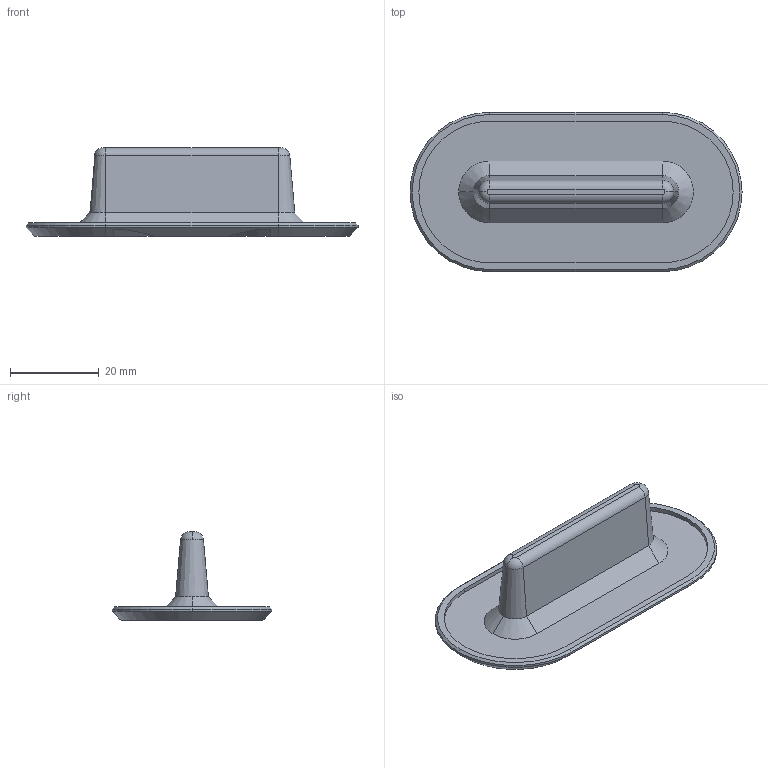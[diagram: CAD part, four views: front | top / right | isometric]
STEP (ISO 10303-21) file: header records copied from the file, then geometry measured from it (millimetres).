
FILE_DESCRIPTION (( 'STEP AP203' ), '1' );
FILE_NAME ('Double Mushroom Valve Holder_Part 1.STEP', '2025-06-17T18:20:14', ( '' ), ( '' ), 'SwSTEP 2.0', 'SolidWorks 2012', '' );
FILE_SCHEMA (( 'CONFIG_CONTROL_DESIGN' ));
Length unit declared in the file: millimetre
Products named in the file (1): Double Mushroom Valve Holder_Part 1
Bounding box: 75 x 36 x 20 mm (x, y, z)
Volume: 9555.5 mm3; surface area: 7132.4 mm2
Topology: 1 solids, 1 shells, 67 faces, 157 edges, 96 vertices
Faces by surface type: cone 33, plane 22, cylinder 8, torus 4
Entity records: 2002 total; most frequent: DIRECTION 359, CARTESIAN_POINT 345, ORIENTED_EDGE 314, EDGE_CURVE 157, AXIS2_PLACEMENT_3D 142, VERTEX_POINT 96, VECTOR 75, LINE 75
